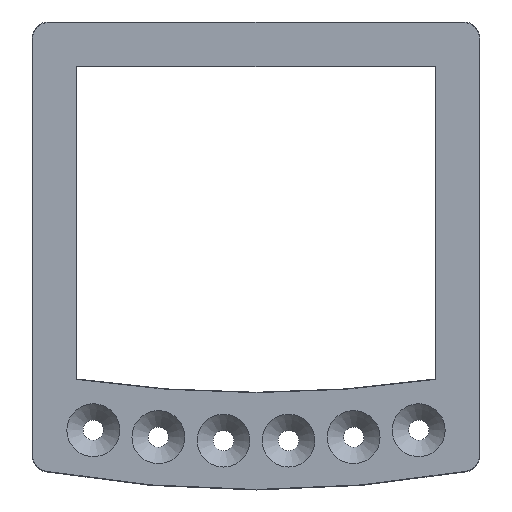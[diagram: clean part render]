
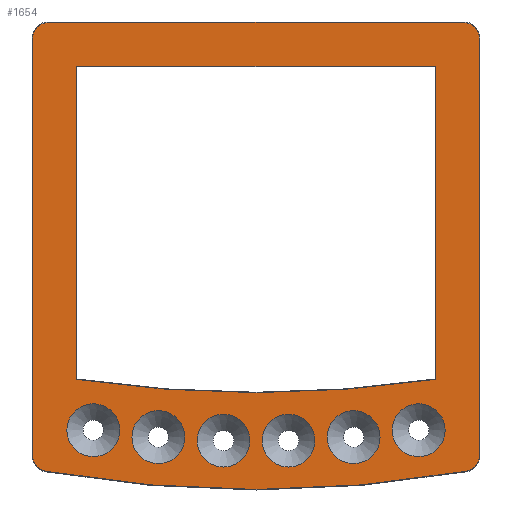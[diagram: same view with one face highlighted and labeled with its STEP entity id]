
A CAD part, top view. The second image highlights one B-rep face of the part: STEP entity #1654.
In plain terms, the highlighted planar face has unit normal (0, 0, 1).
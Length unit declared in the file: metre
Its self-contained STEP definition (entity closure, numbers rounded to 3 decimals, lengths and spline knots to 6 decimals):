
#128=LINE('',#2625,#256);
#129=LINE('',#2628,#257);
#130=LINE('',#2630,#258);
#131=LINE('',#2640,#259);
#132=LINE('',#2644,#260);
#133=LINE('',#2648,#261);
#256=VECTOR('',#2094,1.);
#257=VECTOR('',#2095,1.);
#258=VECTOR('',#2096,1.);
#259=VECTOR('',#2105,1.);
#260=VECTOR('',#2108,1.);
#261=VECTOR('',#2111,1.);
#421=ORIENTED_EDGE('',*,*,#849,.T.);
#422=ORIENTED_EDGE('',*,*,#850,.T.);
#423=ORIENTED_EDGE('',*,*,#851,.T.);
#424=ORIENTED_EDGE('',*,*,#852,.T.);
#425=ORIENTED_EDGE('',*,*,#853,.T.);
#426=ORIENTED_EDGE('',*,*,#854,.T.);
#427=ORIENTED_EDGE('',*,*,#855,.T.);
#428=ORIENTED_EDGE('',*,*,#856,.T.);
#429=ORIENTED_EDGE('',*,*,#857,.T.);
#430=ORIENTED_EDGE('',*,*,#858,.T.);
#431=ORIENTED_EDGE('',*,*,#859,.T.);
#432=ORIENTED_EDGE('',*,*,#860,.T.);
#433=ORIENTED_EDGE('',*,*,#861,.T.);
#434=ORIENTED_EDGE('',*,*,#862,.T.);
#435=ORIENTED_EDGE('',*,*,#863,.T.);
#436=ORIENTED_EDGE('',*,*,#864,.T.);
#437=ORIENTED_EDGE('',*,*,#865,.T.);
#438=ORIENTED_EDGE('',*,*,#866,.T.);
#849=EDGE_CURVE('',#1059,#1059,#1199,.F.);
#850=EDGE_CURVE('',#1060,#1060,#1200,.F.);
#851=EDGE_CURVE('',#1061,#1061,#1201,.F.);
#852=EDGE_CURVE('',#1062,#1062,#1202,.F.);
#853=EDGE_CURVE('',#1063,#1063,#1203,.F.);
#854=EDGE_CURVE('',#1064,#1064,#1204,.F.);
#855=EDGE_CURVE('',#1065,#1066,#128,.F.);
#856=EDGE_CURVE('',#1066,#1067,#129,.T.);
#857=EDGE_CURVE('',#1067,#1068,#130,.T.);
#858=EDGE_CURVE('',#1068,#1065,#1205,.F.);
#859=EDGE_CURVE('',#1069,#1070,#1206,.T.);
#860=EDGE_CURVE('',#1070,#1071,#1207,.T.);
#861=EDGE_CURVE('',#1071,#1072,#1208,.T.);
#862=EDGE_CURVE('',#1072,#1073,#131,.F.);
#863=EDGE_CURVE('',#1073,#1074,#1209,.T.);
#864=EDGE_CURVE('',#1074,#1075,#132,.F.);
#865=EDGE_CURVE('',#1075,#1076,#1210,.T.);
#866=EDGE_CURVE('',#1076,#1069,#133,.T.);
#1059=VERTEX_POINT('',#2614);
#1060=VERTEX_POINT('',#2616);
#1061=VERTEX_POINT('',#2618);
#1062=VERTEX_POINT('',#2620);
#1063=VERTEX_POINT('',#2622);
#1064=VERTEX_POINT('',#2624);
#1065=VERTEX_POINT('',#2626);
#1066=VERTEX_POINT('',#2627);
#1067=VERTEX_POINT('',#2629);
#1068=VERTEX_POINT('',#2631);
#1069=VERTEX_POINT('',#2634);
#1070=VERTEX_POINT('',#2635);
#1071=VERTEX_POINT('',#2637);
#1072=VERTEX_POINT('',#2639);
#1073=VERTEX_POINT('',#2641);
#1074=VERTEX_POINT('',#2643);
#1075=VERTEX_POINT('',#2645);
#1076=VERTEX_POINT('',#2647);
#1199=CIRCLE('',#1804,0.0065);
#1200=CIRCLE('',#1805,0.0065);
#1201=CIRCLE('',#1806,0.0065);
#1202=CIRCLE('',#1807,0.0065);
#1203=CIRCLE('',#1808,0.0065);
#1204=CIRCLE('',#1809,0.0065);
#1205=CIRCLE('',#1810,0.3001);
#1206=CIRCLE('',#1811,0.0039);
#1207=CIRCLE('',#1812,0.2999);
#1208=CIRCLE('',#1813,0.0039);
#1209=CIRCLE('',#1814,0.0039);
#1210=CIRCLE('',#1815,0.0039);
#1283=EDGE_LOOP('',(#421));
#1284=EDGE_LOOP('',(#422));
#1285=EDGE_LOOP('',(#423));
#1286=EDGE_LOOP('',(#424));
#1287=EDGE_LOOP('',(#425));
#1288=EDGE_LOOP('',(#426));
#1289=EDGE_LOOP('',(#427,#428,#429,#430));
#1290=EDGE_LOOP('',(#431,#432,#433,#434,#435,#436,#437,#438));
#1449=FACE_BOUND('',#1283,.T.);
#1450=FACE_BOUND('',#1284,.T.);
#1451=FACE_BOUND('',#1285,.T.);
#1452=FACE_BOUND('',#1286,.T.);
#1453=FACE_BOUND('',#1287,.T.);
#1454=FACE_BOUND('',#1288,.T.);
#1455=FACE_BOUND('',#1289,.T.);
#1456=FACE_BOUND('',#1290,.T.);
#1605=PLANE('',#1803);
#1654=ADVANCED_FACE('',(#1449,#1450,#1451,#1452,#1453,#1454,#1455,#1456),
#1605,.T.);
#1803=AXIS2_PLACEMENT_3D('',#2612,#2080,#2081);
#1804=AXIS2_PLACEMENT_3D('',#2613,#2082,#2083);
#1805=AXIS2_PLACEMENT_3D('',#2615,#2084,#2085);
#1806=AXIS2_PLACEMENT_3D('',#2617,#2086,#2087);
#1807=AXIS2_PLACEMENT_3D('',#2619,#2088,#2089);
#1808=AXIS2_PLACEMENT_3D('',#2621,#2090,#2091);
#1809=AXIS2_PLACEMENT_3D('',#2623,#2092,#2093);
#1810=AXIS2_PLACEMENT_3D('',#2632,#2097,#2098);
#1811=AXIS2_PLACEMENT_3D('',#2633,#2099,#2100);
#1812=AXIS2_PLACEMENT_3D('',#2636,#2101,#2102);
#1813=AXIS2_PLACEMENT_3D('',#2638,#2103,#2104);
#1814=AXIS2_PLACEMENT_3D('',#2642,#2106,#2107);
#1815=AXIS2_PLACEMENT_3D('',#2646,#2109,#2110);
#2080=DIRECTION('',(0.,0.,1.));
#2081=DIRECTION('',(1.,0.,0.));
#2082=DIRECTION('',(0.,0.,1.));
#2083=DIRECTION('',(1.,0.,0.));
#2084=DIRECTION('',(0.,0.,1.));
#2085=DIRECTION('',(1.,0.,0.));
#2086=DIRECTION('',(0.,0.,1.));
#2087=DIRECTION('',(1.,0.,0.));
#2088=DIRECTION('',(0.,0.,1.));
#2089=DIRECTION('',(1.,0.,0.));
#2090=DIRECTION('',(0.,0.,1.));
#2091=DIRECTION('',(1.,0.,0.));
#2092=DIRECTION('',(0.,0.,1.));
#2093=DIRECTION('',(1.,0.,0.));
#2094=DIRECTION('',(0.,-1.,0.));
#2095=DIRECTION('',(1.,0.,0.));
#2096=DIRECTION('',(0.,-1.,0.));
#2097=DIRECTION('',(0.,0.,1.));
#2098=DIRECTION('',(1.,0.,0.));
#2099=DIRECTION('',(0.,0.,1.));
#2100=DIRECTION('',(1.,0.,0.));
#2101=DIRECTION('',(0.,0.,1.));
#2102=DIRECTION('',(1.,0.,0.));
#2103=DIRECTION('',(0.,0.,1.));
#2104=DIRECTION('',(1.,0.,0.));
#2105=DIRECTION('',(0.,-1.,0.));
#2106=DIRECTION('',(0.,0.,1.));
#2107=DIRECTION('',(1.,0.,0.));
#2108=DIRECTION('',(1.,0.,0.));
#2109=DIRECTION('',(0.,0.,1.));
#2110=DIRECTION('',(1.,0.,0.));
#2111=DIRECTION('',(0.,-1.,0.));
#2612=CARTESIAN_POINT('',(0.,0.162,0.018));
#2613=CARTESIAN_POINT('',(0.04,0.014679,0.018));
#2614=CARTESIAN_POINT('',(0.0465,0.014679,0.018));
#2615=CARTESIAN_POINT('',(0.024,0.012962,0.018));
#2616=CARTESIAN_POINT('',(0.0305,0.012962,0.018));
#2617=CARTESIAN_POINT('',(0.008,0.012107,0.018));
#2618=CARTESIAN_POINT('',(0.0145,0.012107,0.018));
#2619=CARTESIAN_POINT('',(-0.008,0.012107,0.018));
#2620=CARTESIAN_POINT('',(-0.0015,0.012107,0.018));
#2621=CARTESIAN_POINT('',(-0.024,0.012962,0.018));
#2622=CARTESIAN_POINT('',(-0.0175,0.012962,0.018));
#2623=CARTESIAN_POINT('',(-0.04,0.014679,0.018));
#2624=CARTESIAN_POINT('',(-0.0335,0.014679,0.018));
#2625=CARTESIAN_POINT('',(-0.0441,0.162,0.018));
#2626=CARTESIAN_POINT('',(-0.0441,0.027158,0.018));
#2627=CARTESIAN_POINT('',(-0.0441,0.1041,0.018));
#2628=CARTESIAN_POINT('',(0.044,0.1041,0.018));
#2629=CARTESIAN_POINT('',(0.0441,0.1041,0.018));
#2630=CARTESIAN_POINT('',(0.0441,0.027244,0.018));
#2631=CARTESIAN_POINT('',(0.0441,0.027158,0.018));
#2632=CARTESIAN_POINT('',(0.,0.324,0.018));
#2633=CARTESIAN_POINT('',(-0.051,0.008427,0.018));
#2634=CARTESIAN_POINT('',(-0.0549,0.008427,0.018));
#2635=CARTESIAN_POINT('',(-0.051672,0.004585,0.018));
#2636=CARTESIAN_POINT('',(0.,0.3,0.018));
#2637=CARTESIAN_POINT('',(0.051672,0.004585,0.018));
#2638=CARTESIAN_POINT('',(0.051,0.008427,0.018));
#2639=CARTESIAN_POINT('',(0.0549,0.008427,0.018));
#2640=CARTESIAN_POINT('',(0.0549,0.162,0.018));
#2641=CARTESIAN_POINT('',(0.0549,0.111,0.018));
#2642=CARTESIAN_POINT('',(0.051,0.111,0.018));
#2643=CARTESIAN_POINT('',(0.051,0.1149,0.018));
#2644=CARTESIAN_POINT('',(0.,0.1149,0.018));
#2645=CARTESIAN_POINT('',(-0.051,0.1149,0.018));
#2646=CARTESIAN_POINT('',(-0.051,0.111,0.018));
#2647=CARTESIAN_POINT('',(-0.0549,0.111,0.018));
#2648=CARTESIAN_POINT('',(-0.0549,0.008427,0.018));
